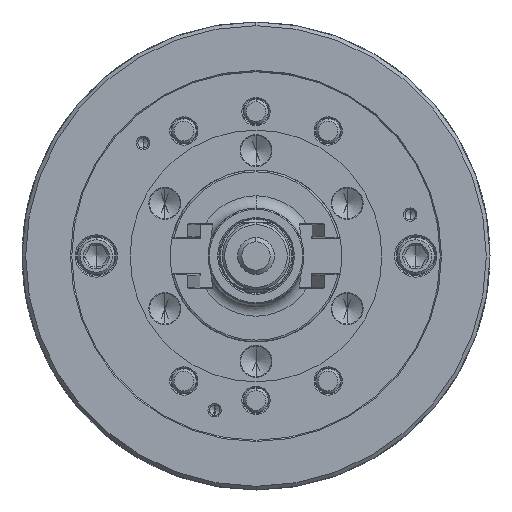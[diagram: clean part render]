
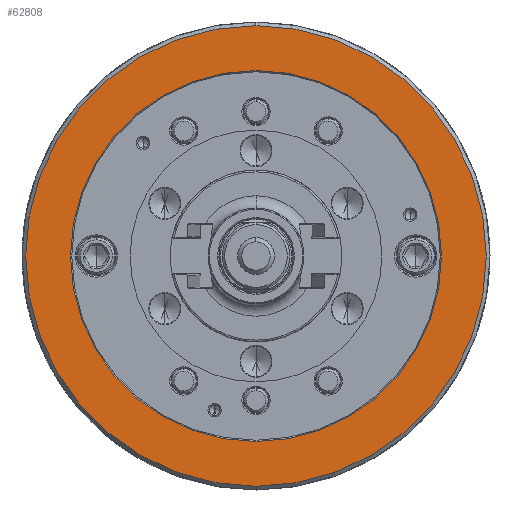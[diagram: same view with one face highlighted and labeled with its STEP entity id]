
A CAD part, left-side view. The second image highlights one B-rep face of the part: STEP entity #62808.
In plain terms, the highlighted planar face has unit normal (-1, 0, 0).
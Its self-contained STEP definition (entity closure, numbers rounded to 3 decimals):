
#926 = CARTESIAN_POINT ( 'NONE',  ( -114., 0., 187.5 ) ) ;
#1000 = CARTESIAN_POINT ( 'NONE',  ( -114., 0., 0. ) ) ;
#1693 = CARTESIAN_POINT ( 'NONE',  ( -114., 0., 0. ) ) ;
#1877 = ORIENTED_EDGE ( 'NONE', *, *, #115684, .T. ) ;
#4438 = EDGE_LOOP ( 'NONE', ( #109195, #1877 ) ) ;
#5317 = EDGE_CURVE ( 'NONE', #92023, #43449, #42122, .T. ) ;
#10881 = AXIS2_PLACEMENT_3D ( 'NONE', #26569, #102146, #92855 ) ;
#11594 = DIRECTION ( 'NONE',  ( 0., 0., -1. ) ) ;
#12469 = DIRECTION ( 'NONE',  ( 1., 0., 0. ) ) ;
#13488 = AXIS2_PLACEMENT_3D ( 'NONE', #1693, #77269, #11594 ) ;
#26569 = CARTESIAN_POINT ( 'NONE',  ( -114., 0., 0. ) ) ;
#40669 = DIRECTION ( 'NONE',  ( 1., 0., 0. ) ) ;
#42122 = CIRCLE ( 'NONE', #111346, 187.5 ) ;
#42692 = EDGE_LOOP ( 'NONE', ( #66854, #64388 ) ) ;
#43449 = VERTEX_POINT ( 'NONE', #78665 ) ;
#44855 = DIRECTION ( 'NONE',  ( 1., 0., 0. ) ) ;
#45170 = CIRCLE ( 'NONE', #13488, 151. ) ;
#48469 = DIRECTION ( 'NONE',  ( 0., 0., -1. ) ) ;
#59815 = VERTEX_POINT ( 'NONE', #88533 ) ;
#62808 = ADVANCED_FACE ( 'NONE', ( #69668, #101210 ), #82004, .F. ) ;
#64388 = ORIENTED_EDGE ( 'NONE', *, *, #5317, .F. ) ;
#64651 = CARTESIAN_POINT ( 'NONE',  ( -114., -187.5, 0. ) ) ;
#66269 = CIRCLE ( 'NONE', #10881, 187.5 ) ;
#66854 = ORIENTED_EDGE ( 'NONE', *, *, #67533, .F. ) ;
#67533 = EDGE_CURVE ( 'NONE', #43449, #92023, #66269, .T. ) ;
#69668 = FACE_OUTER_BOUND ( 'NONE', #42692, .T. ) ;
#71688 = AXIS2_PLACEMENT_3D ( 'NONE', #64651, #44855, #119794 ) ;
#77269 = DIRECTION ( 'NONE',  ( 1., 0., 0. ) ) ;
#77787 = CARTESIAN_POINT ( 'NONE',  ( -114., 0., 151. ) ) ;
#78426 = DIRECTION ( 'NONE',  ( 0., 0., -1. ) ) ;
#78665 = CARTESIAN_POINT ( 'NONE',  ( -114., 0., -187.5 ) ) ;
#82004 = PLANE ( 'NONE',  #71688 ) ;
#88533 = CARTESIAN_POINT ( 'NONE',  ( -114., 0., -151. ) ) ;
#89015 = EDGE_CURVE ( 'NONE', #94592, #59815, #45170, .T. ) ;
#92023 = VERTEX_POINT ( 'NONE', #926 ) ;
#92855 = DIRECTION ( 'NONE',  ( 0., 0., -1. ) ) ;
#94592 = VERTEX_POINT ( 'NONE', #77787 ) ;
#101210 = FACE_BOUND ( 'NONE', #4438, .T. ) ;
#102146 = DIRECTION ( 'NONE',  ( 1., 0., 0. ) ) ;
#103608 = CARTESIAN_POINT ( 'NONE',  ( -114., 0., 0. ) ) ;
#108274 = CIRCLE ( 'NONE', #116230, 151. ) ;
#109195 = ORIENTED_EDGE ( 'NONE', *, *, #89015, .T. ) ;
#111346 = AXIS2_PLACEMENT_3D ( 'NONE', #1000, #40669, #78426 ) ;
#115684 = EDGE_CURVE ( 'NONE', #59815, #94592, #108274, .T. ) ;
#116230 = AXIS2_PLACEMENT_3D ( 'NONE', #103608, #12469, #48469 ) ;
#119794 = DIRECTION ( 'NONE',  ( 0., 0., -1. ) ) ;
